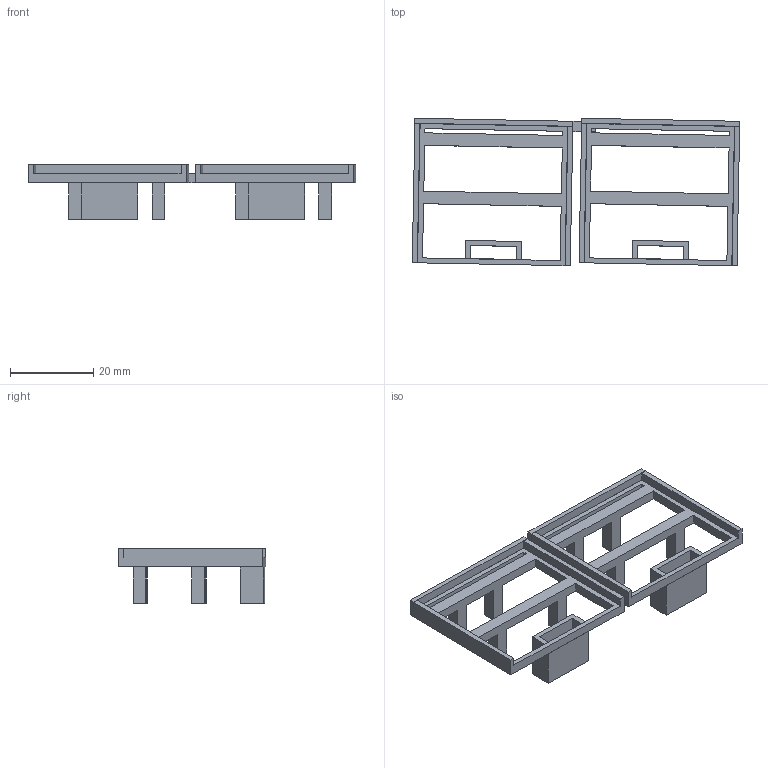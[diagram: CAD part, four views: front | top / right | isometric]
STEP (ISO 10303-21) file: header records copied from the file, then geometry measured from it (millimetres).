
FILE_DESCRIPTION(('Open CASCADE Model'),'2;1');
FILE_NAME('Open CASCADE Shape Model','2026-11-10T17:02:06',('Author'),( 'Open CASCADE'),'Open CASCADE STEP processor 7.9','Open CASCADE 7.9' ,'Unknown');
FILE_SCHEMA(('AUTOMOTIVE_DESIGN { 1 0 10303 214 1 1 1 1 }'));
Length unit declared in the file: millimetre
Products named in the file (2): T11_Dual_regulator_cradle; 01_Dual_regulator_cradle
Assembly tree (1 placements, depth 2):
  T11_Dual_regulator_cradle
    01_Dual_regulator_cradle
Bounding box: 78.56 x 35.37 x 13.07 mm (x, y, z)
Volume: 4200.2 mm3; surface area: 6976.5 mm2
Topology: 1 solids, 1 shells, 112 faces, 342 edges, 228 vertices
Faces by surface type: plane 112
Entity records: 8261 total; most frequent: CARTESIAN_POINT 1368, DIRECTION 1254, LINE 1026, VECTOR 1026, ORIENTED_EDGE 684, PCURVE 684, DEFINITIONAL_REPRESENTATION 684, EDGE_CURVE 342
